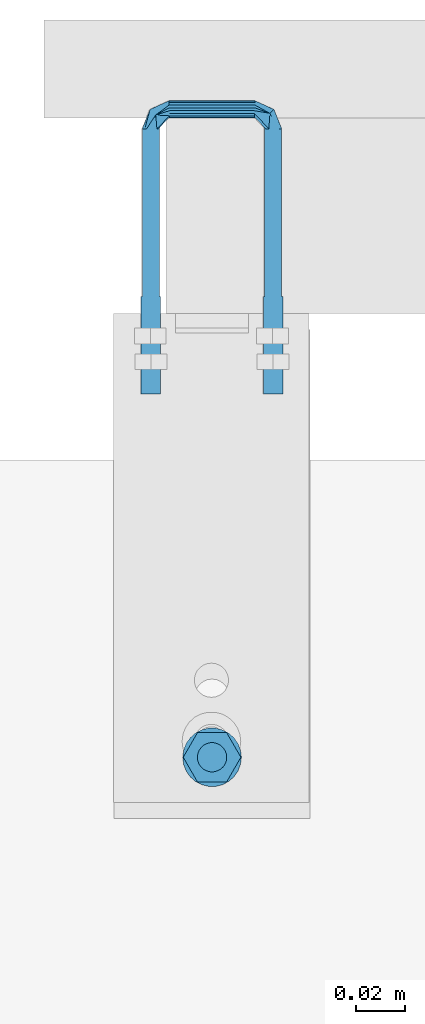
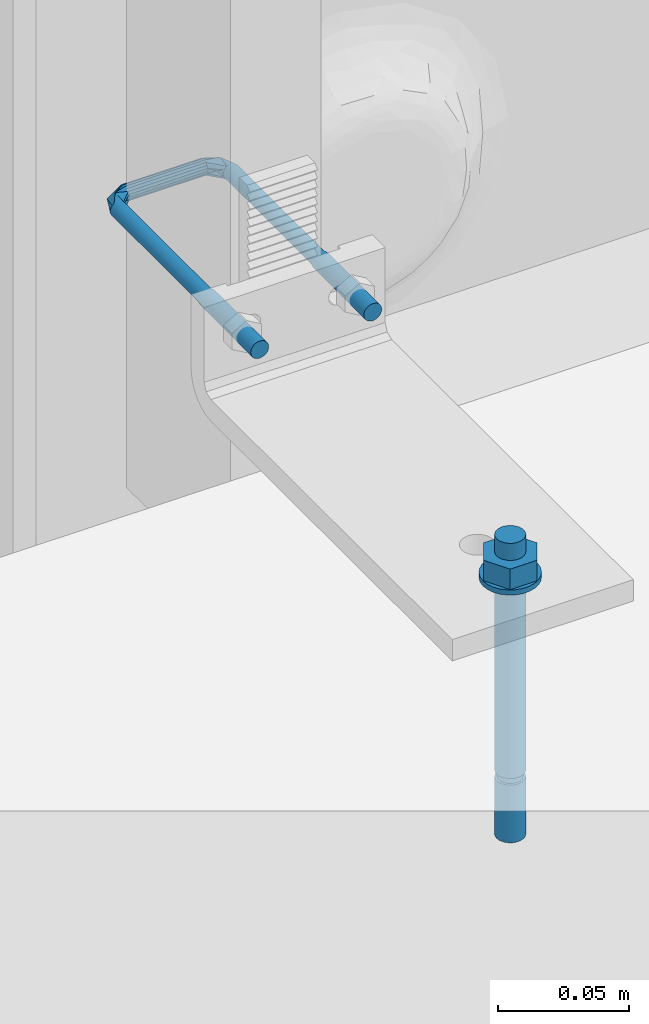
# One storey, part 3 of 13: 2 assemblies.
"""IFC2X3 building model written with IfcOpenShell, lengths in metres."""

from ifc_helpers import new_model, entity, si_unit, converted_unit, derived_unit, direction, frame, frame_2d, origin, place, context, subcontext, project, spatial, polyline, circle_curve, parameter, trimmed, segment, composite_curve, circle, hollow_circle, outline, extrude, faceted_brep, source, transform, mapped, material, type_object, type_shapes, element, save


model = new_model("IFC2X3")

# Units and contexts
model_context = context("Model", 3, precision=1e-05, world=origin(), true_north=direction((6.123031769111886e-17, 1.0)))
body_context = subcontext(model_context, "Body", "Model", "MODEL_VIEW")
ifc_project = project(units=[si_unit("LENGTHUNIT", "METRE"), si_unit("AREAUNIT", "SQUARE_METRE"), converted_unit("PLANEANGLEUNIT", "DEGREE", entity("IfcPlaneAngleMeasure", 0.017453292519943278), si_unit("PLANEANGLEUNIT", "RADIAN"), dimensions=[0, 0, 0, 0, 0, 0, 0]), si_unit("VOLUMEUNIT", "CUBIC_METRE"), derived_unit("THERMALTRANSMITTANCEUNIT", [(si_unit("MASSUNIT", "GRAM", prefix="KILO"), 1), (si_unit("THERMODYNAMICTEMPERATUREUNIT", "KELVIN"), -1), (si_unit("TIMEUNIT", "SECOND"), -3)]), derived_unit("USERDEFINED", [(si_unit("MASSUNIT", "GRAM", prefix="KILO"), 1), (si_unit("THERMODYNAMICTEMPERATUREUNIT", "KELVIN"), -1), (si_unit("TIMEUNIT", "SECOND"), -2)]), derived_unit("THERMALRESISTANCEUNIT", [(si_unit("MASSUNIT", "GRAM", prefix="KILO"), -1), (si_unit("TIMEUNIT", "SECOND"), 3), (si_unit("THERMODYNAMICTEMPERATUREUNIT", "KELVIN"), 1)]), derived_unit("MASSDENSITYUNIT", [(si_unit("MASSUNIT", "GRAM", prefix="KILO"), 1), (si_unit("LENGTHUNIT", "METRE"), -3)]), derived_unit("VAPORPERMEABILITYUNIT", [(si_unit("LENGTHUNIT", "METRE"), -1), (si_unit("TIMEUNIT", "SECOND"), 1)]), derived_unit("USERDEFINED", [(si_unit("MASSUNIT", "GRAM", prefix="KILO"), 1), (si_unit("TIMEUNIT", "SECOND"), -3), (si_unit("LENGTHUNIT", "METRE"), 3), (si_unit("ELECTRICCURRENTUNIT", "AMPERE"), -2)]), si_unit("PRESSUREUNIT", "PASCAL")], contexts=[model_context])

# Site, building, storey
site_placement = place(None, origin())
site = spatial("IfcSite", under=ifc_project, at=site_placement, Name="Default", CompositionType="ELEMENT")
building_placement = place(site_placement, origin())
building = spatial("IfcBuilding", under=site, at=building_placement, CompositionType="ELEMENT")
storey_placement = place(building_placement, origin())
storey = spatial("IfcBuildingStorey", under=building, at=storey_placement, Name="L0", CompositionType="ELEMENT", Elevation=0.0)

# Assemblies
ifc_material = material(Name="REC_Acero, S 275JR (Zincado)")
type_product_1 = type_object("IfcTypeProduct", Name="REC-AU12050M8EQ:AU12050M8EQ", material=ifc_material)
shared_shape_1 = source(origin(), body_context, "Body", "Brep", [
    faceted_brep([(0.023250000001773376, 0.0030310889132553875, 0.023500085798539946), (0.022999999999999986, 0.0034641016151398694, 0.023500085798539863), (0.022525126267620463, 0.0024748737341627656, 0.023500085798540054), (0.02396472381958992, 0.0038637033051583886, 0.023500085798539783), (0.02409413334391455, 0.0033807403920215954, 0.02350008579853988), (0.02500000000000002, 0.004000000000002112, 0.023500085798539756), (0.02500000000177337, 0.003500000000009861, 0.023500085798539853), (0.026035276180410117, 0.003863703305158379, 0.023500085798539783), (0.025905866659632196, 0.0033807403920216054, 0.02350008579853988), (0.027000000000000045, 0.0034641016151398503, 0.023500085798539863), (0.026750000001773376, 0.003031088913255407, 0.023500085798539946), (0.027474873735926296, 0.0024748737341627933, 0.023500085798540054), (0.027828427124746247, 0.0028284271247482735, 0.023500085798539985), (0.028031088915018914, 0.0017500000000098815, 0.023500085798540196), (0.02846410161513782, 0.0020000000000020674, 0.023500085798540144), (0.028380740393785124, 0.0009058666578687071, 0.023500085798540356), (0.02886370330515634, 0.0010352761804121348, 0.02350008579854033), (0.02850000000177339, 0.0, 0.023500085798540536), (0.029000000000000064, 0.0, 0.023500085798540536), (0.028380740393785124, -0.0009058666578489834, 0.023500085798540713), (0.028863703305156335, -0.0010352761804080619, 0.023500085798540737), (0.028031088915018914, -0.0017499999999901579, 0.023500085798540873), (0.028464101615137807, -0.001999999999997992, 0.023500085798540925), (0.027474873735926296, -0.00247487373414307, 0.02350008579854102), (0.027828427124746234, -0.0028284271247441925, 0.023500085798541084), (0.026750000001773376, -0.0030310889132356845, 0.023500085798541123), (0.027000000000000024, -0.003464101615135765, 0.02350008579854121), (0.025905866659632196, -0.0033807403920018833, 0.023500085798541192), (0.026035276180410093, -0.0038637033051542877, 0.02350008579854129), (0.025000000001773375, -0.00349999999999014, 0.023500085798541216), (0.024999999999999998, -0.003999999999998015, 0.023500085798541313), (0.024094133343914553, -0.0033807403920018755, 0.023500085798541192), (0.0239647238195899, -0.0038637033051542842, 0.02350008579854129), (0.02325000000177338, -0.003031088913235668, 0.023500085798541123), (0.022999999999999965, -0.0034641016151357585, 0.02350008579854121), (0.022171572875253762, -0.0028284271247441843, 0.023500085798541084), (0.022525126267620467, -0.0024748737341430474, 0.02350008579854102), (0.021535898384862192, -0.0019999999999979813, 0.023500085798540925), (0.021968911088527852, -0.0017499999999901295, 0.023500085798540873), (0.021136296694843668, -0.0010352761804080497, 0.023500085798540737), (0.02161925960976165, -0.000905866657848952, 0.023500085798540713), (0.02099999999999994, 0.0, 0.023500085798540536), (0.021500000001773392, 0.0, 0.023500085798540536), (0.02113629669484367, 0.0010352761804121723, 0.02350008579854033), (0.02161925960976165, 0.0009058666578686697, 0.023500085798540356), (0.021535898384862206, 0.0020000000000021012, 0.023500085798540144), (0.021968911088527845, 0.0017500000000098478, 0.023500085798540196), (0.022171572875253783, 0.0028284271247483, 0.023500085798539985), (-0.023000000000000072, -0.0034641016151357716, 0.023500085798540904), (-0.02217157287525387, -0.002828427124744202, 0.02350008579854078), (-0.02153589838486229, -0.0019999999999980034, 0.02350008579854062), (-0.021136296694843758, -0.0010352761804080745, 0.023500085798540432), (-0.021619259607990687, -0.000905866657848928, 0.023500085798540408), (-0.02196891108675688, -0.0017499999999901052, 0.023500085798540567), (-0.022525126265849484, -0.002474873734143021, 0.023500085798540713), (-0.023250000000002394, -0.0030310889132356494, 0.023500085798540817), (-0.024094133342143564, -0.0033807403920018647, 0.023500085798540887), (-0.025000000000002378, -0.00349999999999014, 0.02350008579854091), (-0.0259058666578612, -0.0033807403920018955, 0.023500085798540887), (-0.02675000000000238, -0.003031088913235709, 0.023500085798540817), (-0.027474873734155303, -0.0024748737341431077, 0.023500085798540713), (-0.02803108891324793, -0.0017499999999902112, 0.023500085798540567), (-0.02838074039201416, -0.0009058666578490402, 0.023500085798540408), (-0.028500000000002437, 0.0, 0.02350008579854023), (-0.028380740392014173, 0.0009058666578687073, 0.023500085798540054), (-0.028031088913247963, 0.0017500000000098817, 0.02350008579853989), (-0.02747487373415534, 0.002474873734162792, 0.02350008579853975), (-0.02675000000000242, 0.0030310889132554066, 0.02350008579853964), (-0.025905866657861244, 0.0033807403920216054, 0.023500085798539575), (-0.025000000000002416, 0.003500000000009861, 0.02350008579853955), (-0.024094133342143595, 0.003380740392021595, 0.023500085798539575), (-0.02325000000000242, 0.0030310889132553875, 0.02350008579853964), (-0.02252512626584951, 0.0024748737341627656, 0.02350008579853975), (-0.021968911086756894, 0.0017500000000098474, 0.02350008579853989), (-0.021619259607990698, 0.0009058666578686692, 0.023500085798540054), (-0.021000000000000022, 0.0, 0.02350008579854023), (-0.021136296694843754, 0.0010352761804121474, 0.023500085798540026), (-0.02153589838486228, 0.0020000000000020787, 0.023500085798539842), (-0.02217157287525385, 0.002828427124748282, 0.02350008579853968), (-0.02300000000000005, 0.0034641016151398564, 0.023500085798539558), (-0.023964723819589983, 0.003863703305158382, 0.023500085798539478), (-0.02500000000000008, 0.004000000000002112, 0.023500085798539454), (-0.02603527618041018, 0.003863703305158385, 0.023500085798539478), (-0.02700000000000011, 0.003464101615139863, 0.023500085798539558), (-0.027828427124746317, 0.0028284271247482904, 0.02350008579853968), (-0.02846410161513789, 0.0020000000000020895, 0.023500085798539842), (-0.028863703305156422, 0.0010352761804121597, 0.023500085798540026), (-0.02900000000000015, 0.0, 0.02350008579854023), (-0.028863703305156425, -0.001035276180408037, 0.023500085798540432), (-0.028464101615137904, -0.0019999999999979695, 0.02350008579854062), (-0.027828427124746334, -0.0028284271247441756, 0.02350008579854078), (-0.02700000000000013, -0.0034641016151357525, 0.023500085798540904), (-0.026035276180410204, -0.003863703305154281, 0.023500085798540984), (-0.025000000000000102, -0.003999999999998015, 0.023500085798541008), (-0.023964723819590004, -0.0038637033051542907, 0.023500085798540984), (0.0239647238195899, -0.003863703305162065, -0.016499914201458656), (0.022999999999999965, -0.0034641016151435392, -0.016499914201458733), (0.022171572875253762, -0.0028284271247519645, -0.016499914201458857), (0.021535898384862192, -0.0020000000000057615, -0.016499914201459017), (0.021136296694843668, -0.0010352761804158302, -0.016499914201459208), (0.02099999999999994, 0.0, -0.016499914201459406), (0.02113629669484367, 0.0010352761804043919, -0.016499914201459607), (0.021535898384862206, 0.0019999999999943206, -0.016499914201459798), (0.022171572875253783, 0.0028284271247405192, -0.016499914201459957), (0.022999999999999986, 0.0034641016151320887, -0.016499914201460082), (0.02396472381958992, 0.003863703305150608, -0.01649991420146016), (0.02500000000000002, 0.003999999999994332, -0.016499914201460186), (0.026035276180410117, 0.0038637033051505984, -0.01649991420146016), (0.027000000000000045, 0.0034641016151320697, -0.016499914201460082), (0.027828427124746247, 0.0028284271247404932, -0.016499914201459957), (0.02846410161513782, 0.001999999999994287, -0.016499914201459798), (0.02886370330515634, 0.0010352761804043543, -0.016499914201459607), (0.029000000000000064, 0.0, -0.016499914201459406), (0.028863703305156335, -0.0010352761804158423, -0.016499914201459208), (0.028464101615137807, -0.0020000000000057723, -0.016499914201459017), (0.027828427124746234, -0.002828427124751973, -0.016499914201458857), (0.027000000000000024, -0.0034641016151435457, -0.016499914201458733), (0.026035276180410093, -0.003863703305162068, -0.016499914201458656), (0.024999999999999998, -0.004000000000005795, -0.01649991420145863), (-0.023964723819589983, 0.003863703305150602, -0.016499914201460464), (-0.02300000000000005, 0.003464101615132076, -0.016499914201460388), (-0.02217157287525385, 0.0028284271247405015, -0.016499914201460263), (-0.02153589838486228, 0.0019999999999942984, -0.0164999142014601), (-0.021136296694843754, 0.001035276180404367, -0.016499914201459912), (-0.021000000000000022, 0.0, -0.01649991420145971), (-0.021136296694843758, -0.0010352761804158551, -0.01649991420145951), (-0.02153589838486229, -0.0020000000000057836, -0.016499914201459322), (-0.02217157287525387, -0.0028284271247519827, -0.016499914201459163), (-0.023000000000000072, -0.003464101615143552, -0.016499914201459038), (-0.023964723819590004, -0.003863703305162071, -0.01649991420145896), (-0.025000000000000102, -0.004000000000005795, -0.016499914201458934), (-0.026035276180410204, -0.0038637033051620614, -0.01649991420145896), (-0.02700000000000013, -0.0034641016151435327, -0.016499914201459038), (-0.027828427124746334, -0.0028284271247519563, -0.016499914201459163), (-0.028464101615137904, -0.00200000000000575, -0.016499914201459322), (-0.028863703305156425, -0.0010352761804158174, -0.01649991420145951), (-0.02900000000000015, 0.0, -0.01649991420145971), (-0.028863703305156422, 0.001035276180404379, -0.016499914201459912), (-0.02846410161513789, 0.0019999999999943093, -0.0164999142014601), (-0.027828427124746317, 0.00282842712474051, -0.016499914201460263), (-0.02700000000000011, 0.0034641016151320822, -0.016499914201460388), (-0.02603527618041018, 0.003863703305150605, -0.016499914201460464), (-0.02500000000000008, 0.003999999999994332, -0.01649991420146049), (-0.021500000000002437, 0.0, 0.0235000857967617), (-0.021500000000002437, 0.0, 0.09201281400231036), (-0.021619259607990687, -0.000905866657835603, 0.09201281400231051), (-0.021968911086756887, -0.0017499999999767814, 0.0920128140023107), (-0.022525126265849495, -0.0024748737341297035, 0.09201281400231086), (-0.023250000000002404, -0.003031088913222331, 0.09201281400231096), (-0.024094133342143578, -0.0033807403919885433, 0.09201281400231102), (-0.0250000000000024, -0.0034999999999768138, 0.09201281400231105), (-0.0267500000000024, -0.00303108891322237, 0.09201281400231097), (-0.027474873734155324, -0.002474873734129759, 0.09201281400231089), (-0.02590586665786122, -0.0033807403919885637, 0.09201281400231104), (-0.028380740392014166, -0.0009058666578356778, 0.09201281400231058), (-0.028500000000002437, 0.0, 0.09201281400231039), (-0.028031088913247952, -0.0017499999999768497, 0.09201281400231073), (-0.02838074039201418, 0.0009058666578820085, 0.0920128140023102), (-0.028031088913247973, 0.0017500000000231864, 0.09201281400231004), (-0.026750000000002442, 0.003031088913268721, 0.09201281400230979), (-0.02590586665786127, 0.0033807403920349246, 0.09201281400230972), (-0.02747487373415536, 0.0024748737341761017, 0.09201281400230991), (-0.025000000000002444, 0.0035000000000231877, 0.0920128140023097), (-0.023250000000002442, 0.0030310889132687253, 0.09201281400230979), (-0.022525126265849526, 0.0024748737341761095, 0.09201281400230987), (-0.024094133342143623, 0.003380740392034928, 0.09201281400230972), (-0.0216192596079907, 0.0009058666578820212, 0.09201281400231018), (-0.021968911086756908, 0.001750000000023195, 0.09201281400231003), (-0.023021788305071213, -0.0034912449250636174, 0.09764821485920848), (-0.017367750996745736, -0.002249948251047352, 0.09731909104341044), (-0.027229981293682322, 0.0, 0.0951839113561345), (-0.025320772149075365, 0.0, 0.09995099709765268), (-0.020299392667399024, 0.0, 0.09507288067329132), (-0.01734606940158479, -0.0011969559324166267, 0.09671111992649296), (-0.017338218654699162, 0.0, 0.09650008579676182), (-0.017433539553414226, -0.00344640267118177, 0.09938991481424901), (-0.017467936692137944, -0.0034468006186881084, 0.10060800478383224), (-0.017398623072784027, -0.0030301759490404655, 0.09824850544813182), (-0.01749800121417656, -0.003031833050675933, 0.10174879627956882), (-0.01753592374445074, -0.0011969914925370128, 0.10328903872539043), (-0.01752129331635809, -0.0022495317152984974, 0.10268143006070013), (-0.017540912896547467, 0.0, 0.10350008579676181), (-0.02302182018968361, 0.0034912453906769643, 0.09764817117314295), (-0.017467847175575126, 0.003447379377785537, 0.10060471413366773), (-0.017433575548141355, 0.003446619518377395, 0.09939114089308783), (-0.017367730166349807, 0.002249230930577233, 0.0973184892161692), (-0.017497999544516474, 0.0030318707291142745, 0.10174873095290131), (-0.01752126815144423, 0.002250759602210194, 0.1026803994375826), (-0.01739859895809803, 0.00302973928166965, 0.09824775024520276), (-0.0175359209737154, 0.0011973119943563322, 0.1032889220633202), (-0.01734606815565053, 0.0011968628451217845, 0.0967110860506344), (0.017338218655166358, 0.0, 0.09650008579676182), (0.01734606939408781, -0.0011969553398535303, 0.09671111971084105), (0.017398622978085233, -0.0030301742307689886, 0.09824850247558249), (0.01743353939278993, -0.0034464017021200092, 0.09938990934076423), (0.017367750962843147, -0.0022499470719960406, 0.09731909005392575), (0.017467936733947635, -0.0034468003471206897, 0.10060800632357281), (0.017498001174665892, -0.003031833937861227, 0.10174879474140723), (0.017521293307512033, -0.002249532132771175, 0.10268142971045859), (0.017535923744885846, -0.001196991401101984, 0.10328903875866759), (0.017540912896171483, 0.0, 0.10350008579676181), (0.017535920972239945, 0.0011973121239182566, 0.10328892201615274), (0.01752126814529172, 0.0022507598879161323, 0.10268039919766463), (0.017497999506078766, 0.0030318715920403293, 0.10174872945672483), (0.017467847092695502, 0.0034473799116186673, 0.10060471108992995), (0.017433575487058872, 0.0034466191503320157, 0.09939113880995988), (0.017398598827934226, 0.003029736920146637, 0.09824774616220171), (0.01734606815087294, 0.0011968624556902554, 0.09671108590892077), (0.01736773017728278, 0.0022492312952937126, 0.09731848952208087), (0.022525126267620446, -0.002474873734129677, 0.0920128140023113), (0.02369781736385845, -0.0032894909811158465, 0.09831334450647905), (0.02029939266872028, 0.0, 0.09507288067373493), (0.021968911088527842, -0.001749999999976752, 0.09201281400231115), (0.023250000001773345, -0.003031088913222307, 0.0920128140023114), (0.025320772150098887, 0.0, 0.09995099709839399), (0.02838074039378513, -0.0009058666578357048, 0.09201281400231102), (0.028500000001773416, 0.0, 0.09201281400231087), (0.02722998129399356, 0.0, 0.0951839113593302), (0.02675000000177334, -0.003031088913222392, 0.09201281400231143), (0.025905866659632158, -0.003380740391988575, 0.0920128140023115), (0.02161925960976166, -0.0009058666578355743, 0.09201281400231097), (0.021500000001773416, 0.0, 0.0920128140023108), (0.02409413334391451, -0.00338074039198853, 0.09201281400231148), (0.02747487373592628, -0.0024748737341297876, 0.09201281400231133), (0.02500000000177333, -0.0034999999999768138, 0.09201281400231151), (0.028031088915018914, -0.001749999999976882, 0.09201281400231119), (0.023697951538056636, 0.0032894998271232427, 0.09831316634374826), (0.021968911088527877, 0.0017500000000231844, 0.09201281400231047), (0.02252512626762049, 0.0024748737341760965, 0.09201281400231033), (0.02590586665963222, 0.003380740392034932, 0.09201281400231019), (0.025000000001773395, 0.0035000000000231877, 0.09201281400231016), (0.02803108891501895, 0.0017500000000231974, 0.0920128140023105), (0.02838074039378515, 0.0009058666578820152, 0.09201281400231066), (0.024094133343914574, 0.0033807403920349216, 0.09201281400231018), (0.026750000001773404, 0.003031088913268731, 0.09201281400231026), (0.027474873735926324, 0.002474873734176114, 0.09201281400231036), (0.021619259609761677, 0.0009058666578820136, 0.09201281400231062), (0.023250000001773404, 0.0030310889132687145, 0.09201281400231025)], [[[0, 1, 2]], [[1, 0, 3]], [[4, 3, 0]], [[5, 3, 4]], [[6, 5, 4]], [[6, 7, 5]], [[7, 6, 8]], [[7, 8, 9]], [[10, 9, 8]], [[11, 9, 10]], [[12, 9, 11]], [[13, 12, 11]], [[13, 14, 12]], [[13, 15, 14]], [[15, 16, 14]], [[16, 15, 17]], [[16, 17, 18]], [[17, 19, 18]], [[19, 20, 18]], [[19, 21, 20]], [[20, 21, 22]], [[21, 23, 22]], [[23, 24, 22]], [[25, 24, 23]], [[24, 25, 26]], [[26, 25, 27]], [[27, 28, 26]], [[27, 29, 28]], [[28, 29, 30]], [[30, 29, 31]], [[31, 32, 30]], [[32, 31, 33]], [[33, 34, 32]], [[35, 34, 33]], [[35, 33, 36]], [[37, 35, 36]], [[36, 38, 37]], [[38, 39, 37]], [[38, 40, 39]], [[40, 41, 39]], [[40, 42, 41]], [[42, 43, 41]], [[44, 43, 42]], [[44, 45, 43]], [[44, 46, 45]], [[2, 47, 46]], [[46, 47, 45]], [[2, 1, 47]], [[48, 49, 50, 51, 52, 53, 54, 55, 56, 57, 58, 59, 60, 61, 62, 63, 64, 65, 66, 67, 68, 69, 70, 71, 72, 73, 74, 75, 76, 77, 78, 79, 80, 81, 82, 83, 84, 85, 86, 87, 88, 89, 90, 91, 92, 93, 94]], [[95, 96, 97, 98, 99, 100, 101, 102, 103, 104, 105, 106, 107, 108, 109, 110, 111, 112, 113, 114, 115, 116, 117, 118]], [[119, 120, 121, 122, 123, 124, 125, 126, 127, 128, 129, 130, 131, 132, 133, 134, 135, 136, 137, 138, 139, 140, 141, 142]], [[99, 39, 41, 100]], [[98, 37, 39, 99]], [[34, 35, 97, 96]], [[98, 97, 35, 37]], [[32, 34, 96, 95]], [[95, 118, 30, 32]], [[117, 28, 30, 118]], [[116, 26, 28, 117]], [[22, 24, 115, 114]], [[116, 115, 24, 26]], [[20, 22, 114, 113]], [[18, 20, 113, 112]], [[111, 16, 18, 112]], [[110, 14, 16, 111]], [[9, 12, 109, 108]], [[110, 109, 12, 14]], [[7, 9, 108, 107]], [[5, 7, 107, 106]], [[105, 3, 5, 106]], [[104, 1, 3, 105]], [[45, 47, 103, 102]], [[104, 103, 47, 1]], [[43, 45, 102, 101]], [[41, 43, 101, 100]], [[143, 144, 145, 52]], [[146, 53, 52, 145]], [[54, 147, 148, 55]], [[146, 147, 54, 53]], [[55, 148, 149, 56]], [[56, 149, 150, 57]], [[151, 152, 60, 59]], [[153, 151, 59, 58]], [[154, 155, 63, 62]], [[156, 154, 62, 61]], [[152, 156, 61, 60]], [[58, 57, 150, 153]], [[157, 158, 65, 64]], [[155, 157, 64, 63]], [[159, 160, 68, 67]], [[161, 159, 67, 66]], [[158, 161, 66, 65]], [[68, 160, 162, 69]], [[163, 164, 72, 71]], [[165, 163, 71, 70]], [[166, 144, 143, 74]], [[167, 166, 74, 73]], [[164, 167, 73, 72]], [[70, 69, 162, 165]], [[149, 148, 168]], [[168, 148, 147]], [[169, 147, 146]], [[169, 168, 147]], [[150, 168, 153]], [[156, 152, 170]], [[170, 152, 171]], [[151, 153, 168]], [[151, 171, 152]], [[155, 154, 170]], [[146, 145, 172]], [[172, 173, 146]], [[173, 172, 174]], [[156, 170, 154]], [[175, 176, 168]], [[168, 169, 177]], [[169, 146, 173]], [[176, 178, 168]], [[175, 168, 177]], [[171, 151, 168]], [[149, 168, 150]], [[168, 178, 171]], [[179, 171, 180]], [[181, 171, 179]], [[180, 171, 178]], [[172, 145, 144]], [[171, 161, 170]], [[157, 170, 158]], [[157, 155, 170]], [[159, 161, 171]], [[159, 171, 182]], [[183, 184, 182]], [[170, 161, 158]], [[160, 182, 162]], [[162, 182, 165]], [[164, 163, 182]], [[167, 172, 166]], [[164, 185, 167]], [[165, 182, 163]], [[160, 159, 182]], [[186, 183, 182]], [[186, 171, 187]], [[188, 182, 184]], [[171, 189, 187]], [[189, 171, 181]], [[144, 166, 172]], [[174, 172, 190]], [[164, 182, 185]], [[190, 172, 167]], [[167, 185, 190]], [[188, 185, 182]], [[186, 182, 171]], [[191, 192, 174]], [[193, 194, 177]], [[195, 193, 169]], [[192, 195, 173]], [[173, 174, 192]], [[177, 169, 193]], [[175, 177, 194]], [[173, 195, 169]], [[194, 196, 175]], [[176, 196, 197]], [[180, 198, 199]], [[197, 198, 178]], [[199, 200, 179]], [[176, 197, 178]], [[199, 179, 180]], [[180, 178, 198]], [[179, 200, 181]], [[196, 176, 175]], [[181, 200, 201]], [[186, 202, 203]], [[201, 202, 189]], [[183, 203, 204]], [[181, 201, 189]], [[187, 189, 202]], [[202, 186, 187]], [[203, 183, 186]], [[204, 184, 183]], [[205, 206, 188]], [[207, 191, 190]], [[208, 207, 185]], [[206, 208, 185]], [[188, 184, 205]], [[190, 185, 207]], [[174, 190, 191]], [[188, 206, 185]], [[205, 184, 204]], [[209, 193, 195]], [[194, 193, 210]], [[192, 191, 211]], [[195, 192, 212]], [[210, 193, 213]], [[214, 200, 199]], [[214, 199, 198]], [[196, 210, 197]], [[196, 194, 210]], [[210, 198, 197]], [[211, 212, 192]], [[215, 216, 217]], [[218, 210, 219]], [[220, 212, 211]], [[221, 220, 211]], [[210, 214, 198]], [[222, 210, 213]], [[209, 213, 193]], [[212, 209, 195]], [[223, 210, 218]], [[219, 210, 224]], [[225, 217, 223]], [[214, 223, 217]], [[215, 217, 225]], [[223, 214, 210]], [[224, 210, 222]], [[201, 214, 202]], [[214, 201, 200]], [[226, 203, 202]], [[226, 202, 214]], [[204, 226, 205]], [[205, 226, 206]], [[227, 207, 208]], [[207, 211, 191]], [[227, 211, 207]], [[208, 206, 228]], [[229, 230, 226]], [[231, 217, 232]], [[230, 233, 226]], [[234, 226, 235]], [[203, 226, 204]], [[231, 235, 217]], [[232, 217, 216]], [[226, 214, 235]], [[214, 217, 235]], [[227, 236, 211]], [[221, 211, 236]], [[237, 206, 226]], [[228, 206, 237]], [[227, 208, 228]], [[233, 237, 226]], [[226, 234, 229]], [[221, 42, 40, 220]], [[38, 212, 220, 40]], [[209, 36, 33, 213]], [[38, 36, 209, 212]], [[213, 33, 31, 222]], [[222, 31, 29, 224]], [[25, 23, 223, 218]], [[27, 25, 218, 219]], [[19, 17, 216, 215]], [[21, 19, 215, 225]], [[23, 21, 225, 223]], [[219, 224, 29, 27]], [[15, 13, 231, 232]], [[17, 15, 232, 216]], [[10, 8, 229, 234]], [[11, 10, 234, 235]], [[13, 11, 235, 231]], [[229, 8, 6, 230]], [[0, 2, 228, 237]], [[4, 0, 237, 233]], [[44, 42, 221, 236]], [[46, 44, 236, 227]], [[2, 46, 227, 228]], [[233, 230, 6, 4]], [[143, 51, 75]], [[52, 51, 143]], [[74, 143, 75]], [[135, 88, 87, 136]], [[134, 89, 88, 135]], [[91, 90, 133, 132]], [[134, 133, 90, 89]], [[92, 91, 132, 131]], [[93, 92, 131, 130]], [[129, 94, 93, 130]], [[128, 48, 94, 129]], [[50, 49, 127, 126]], [[128, 127, 49, 48]], [[51, 50, 126, 125]], [[75, 51, 125, 124]], [[123, 76, 75, 124]], [[122, 77, 76, 123]], [[79, 78, 121, 120]], [[122, 121, 78, 77]], [[80, 79, 120, 119]], [[119, 142, 81, 80]], [[141, 82, 81, 142]], [[140, 83, 82, 141]], [[85, 84, 139, 138]], [[140, 139, 84, 83]], [[86, 85, 138, 137]], [[87, 86, 137, 136]]]),
])
type_shapes(type_product_1, [shared_shape_1])
assembly_1_placement = place(storey_placement, frame((4.956482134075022, 15.978030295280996, 0.03508418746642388), z_axis=(0.0, 1.0, 0.0), x_axis=(1.0, 0.0, 0.0)))
element("IfcElementAssembly", 1, at=assembly_1_placement, inside=storey, type_object=type_product_1, material=ifc_material, Name="REC-AU12050M8EQ:AU12050M8EQ", ObjectType="REC-AU12050M8EQ:AU12050M8EQ", AssemblyPlace="NOTDEFINED", PredefinedType="NOTDEFINED", context=body_context, shape_type="MappedRepresentation", body=[
    mapped(shared_shape_1, transform((0.0, 0.0, 0.0), scale=1.0)),
])
type_product_2 = type_object("IfcTypeProduct", Name="REC-AEM12-140:AEM12-140", material=ifc_material)
shared_shape_2 = source(origin(), body_context, "Body", "SweptSolid", [
    extrude(outline(polyline([(-0.005890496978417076, -0.010202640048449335), (0.005890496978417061, -0.010202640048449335), (0.01178099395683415, 0.0), (0.005890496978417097, 0.010202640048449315), (-0.0058904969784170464, 0.010202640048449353), (-0.011780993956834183, 0.0), (-0.005890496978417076, -0.010202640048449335)]), holes=[composite_curve([segment(trimmed(circle_curve(frame_2d((6.043164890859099e-09, 0.0), x_axis=(1.0, 0.0)), 0.005999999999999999), [parameter(3.053332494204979e-13)], [parameter(180.0)], True, "PARAMETER"), False, "CONTINUOUS"), segment(trimmed(circle_curve(frame_2d((6.043164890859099e-09, 0.0), x_axis=(1.0, 0.0)), 0.005999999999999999), [parameter(179.99999999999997)], [parameter(0.0)], True, "PARAMETER"), False, "CONTINUOUS")], self_intersect=False)]), frame((-6.043164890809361e-09, 0.0, 0.002399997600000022)), (0.0, 0.0, 1.0), 0.009600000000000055),
    extrude(hollow_circle(Radius=0.011999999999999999, WallThickness=0.004999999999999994, at=frame_2d((1.062573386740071e-19, -1.9386534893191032e-17), x_axis=(1.0, 0.0))), origin(), (0.0, 0.0, 1.0), 0.002399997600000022),
    extrude(circle(Radius=0.006, at=frame_2d((1.3218592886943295e-19, -9.69326744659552e-18), x_axis=(1.0, 0.0))), frame((0.0, 0.0, -0.09)), (0.0, 0.0, 1.0), 0.11),
    extrude(circle(Radius=0.006, at=frame_2d((1.3218592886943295e-19, -9.69326744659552e-18), x_axis=(1.0, 0.0))), frame((0.0, 0.0, -0.12)), (0.0, 0.0, 1.0), 0.026999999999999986),
    extrude(circle(Radius=0.005, at=frame_2d((1.3218592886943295e-19, -8.077722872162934e-18), x_axis=(1.0, 0.0))), frame((0.0, 0.0, -0.09300000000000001)), (0.0, 0.0, 1.0), 0.0030000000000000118),
])
type_shapes(type_product_2, [shared_shape_2])
assembly_2_placement = place(storey_placement, frame((4.956507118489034, 15.813030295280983, 0.009999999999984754), z_axis=(0.0, 0.0, 1.0), x_axis=(-1.0, 0.0, 0.0)))
element("IfcElementAssembly", 2, at=assembly_2_placement, inside=storey, type_object=type_product_2, material=ifc_material, Name="REC-AEM12-140:AEM12-140", ObjectType="REC-AEM12-140:AEM12-140", AssemblyPlace="NOTDEFINED", PredefinedType="NOTDEFINED", context=body_context, shape_type="MappedRepresentation", body=[
    mapped(shared_shape_2, transform((0.0, 0.0, 0.0), scale=1.0)),
])

save(model, "model.ifc")
